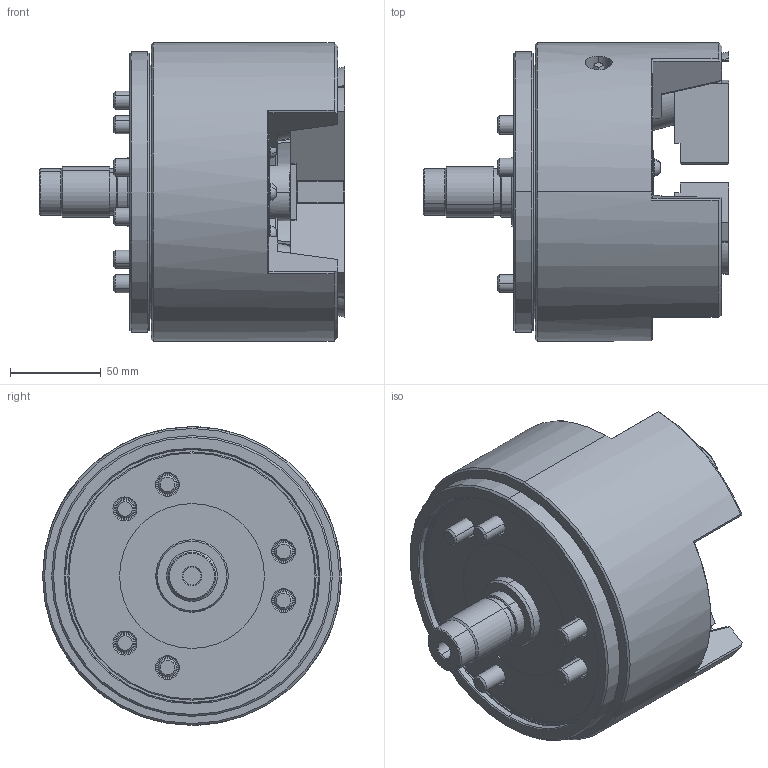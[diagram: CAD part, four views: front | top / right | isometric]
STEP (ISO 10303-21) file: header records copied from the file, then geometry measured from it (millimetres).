
FILE_DESCRIPTION (( 'STEP AP214' ), '1' );
FILE_NAME ('PU206_CL.STEP', '2019-10-18T08:47:51', ( '' ), ( '' ), 'SwSTEP 2.0', 'SolidWorks 2017', '' );
FILE_SCHEMA (( 'AUTOMOTIVE_DESIGN' ));
Length unit declared in the file: millimetre
Products named in the file (4): 結合; 0030110025; 61P332352; PU206_CL
Assembly tree (7 placements, depth 2):
  PU206_CL
    61P332352  x3
    0030110025  x3
    結合
Bounding box: 169 x 165 x 165 mm (x, y, z)
Volume: 1797715.5 mm3; surface area: 194175.7 mm2
Topology: 7 solids, 7 shells, 1092 faces, 2716 edges, 1703 vertices
Faces by surface type: plane 521, cone 209, cylinder 176, bspline 147, torus 39
Entity records: 35531 total; most frequent: CARTESIAN_POINT 12879, ORIENTED_EDGE 4924, DIRECTION 4223, EDGE_CURVE 2462, VERTEX_POINT 1565, AXIS2_PLACEMENT_3D 1455, LINE 1313, VECTOR 1313
